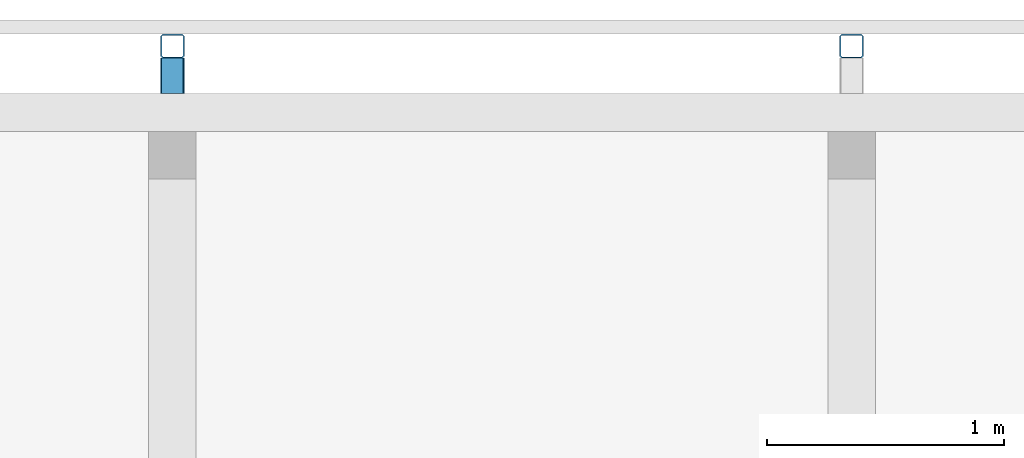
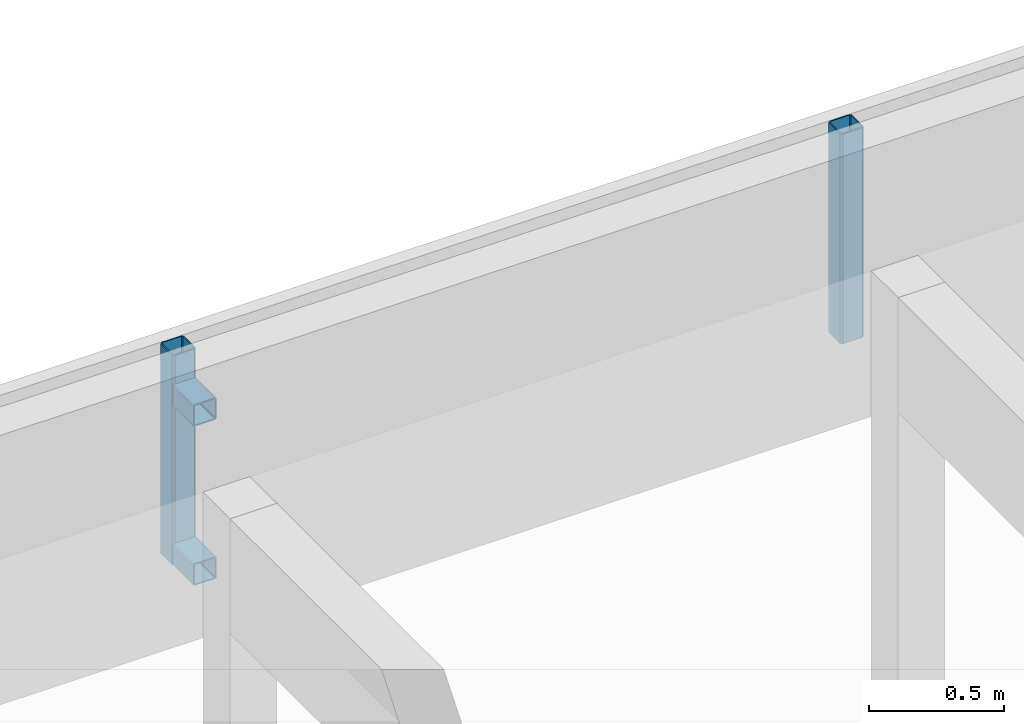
# One storey, part 29 of 44: 4 members.
"""IFC4 building model written with IfcOpenShell, lengths in metres."""

from ifc_helpers import new_model, entity, si_unit, converted_unit, derived_unit, frame, origin, place, context, subcontext, project, spatial, faceted_brep, material, element, save


model = new_model("IFC4")

# Units and contexts
model_context = context("Model", 3, precision=1e-05, world=origin())
plan_context = context("Plan", 2, precision=1e-05, world=origin())
body_context = subcontext(model_context, "Body", "Model", "MODEL_VIEW")
ifc_project = project(units=[si_unit("LENGTHUNIT", "METRE"), si_unit("AREAUNIT", "SQUARE_METRE"), si_unit("VOLUMEUNIT", "CUBIC_METRE"), si_unit("MASSUNIT", "GRAM", prefix="KILO"), converted_unit("PLANEANGLEUNIT", "DEGREE", entity("IfcPlaneAngleMeasure", 0.0174532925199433), si_unit("PLANEANGLEUNIT", "RADIAN"), dimensions=[0, 0, 0, 0, 0, 0, 0]), derived_unit("THERMALTRANSMITTANCEUNIT", [(si_unit("POWERUNIT", "WATT"), 1), (si_unit("THERMODYNAMICTEMPERATUREUNIT", "KELVIN"), -1), (si_unit("LENGTHUNIT", "METRE"), -2)]), derived_unit("VOLUMETRICFLOWRATEUNIT", [(si_unit("LENGTHUNIT", "METRE"), 3), (converted_unit("TIMEUNIT", "hour", entity("IfcTimeMeasure", 3600.0), si_unit("TIMEUNIT", "SECOND"), dimensions=[0, 0, 1, 0, 0, 0, 0]), -1), (si_unit("LENGTHUNIT", "METRE"), -1)])], contexts=[model_context, plan_context])

# Site, building, storey
site_placement = place(None, origin())
site = spatial("IfcSite", under=ifc_project, at=site_placement, Name="Site", CompositionType="ELEMENT")
building_placement = place(site_placement, origin())
building = spatial("IfcBuilding", under=site, at=building_placement, Name="Admin", CompositionType="ELEMENT")
storey_placement = place(building_placement, frame((0.0, 0.0, 3.25)))
storey = spatial("IfcBuildingStorey", under=building, at=storey_placement, Name="01-Etage1", CompositionType="ELEMENT", Elevation=3.25)

# Members
ifc_material_1 = material(Name="S235")
member_1_placement = place(storey_placement, frame((41.05980059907, 22.4994493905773, 2.82)))
element("IfcMember", 1, at=member_1_placement, inside=storey, material=ifc_material_1, Name="Bandeau R+1", context=body_context, shape_type="Brep", body=[
    faceted_brep([(0.09, 0.005, 0.0), (0.09, 0.005, 0.95), (0.01, 0.005, 0.95), (0.01, 0.005, 0.0), (0.095, 0.01, 0.0), (0.095, 0.01, 0.95), (0.095, 0.09, 0.0), (0.095, 0.09, 0.95), (0.09, 0.095, 0.0), (0.09, 0.095, 0.95), (0.01, 0.095, 0.0), (0.01, 0.095, 0.95), (0.005, 0.09, 0.0), (0.005, 0.09, 0.95), (0.005, 0.01, 0.0), (0.005, 0.01, 0.95), (0.0, 0.0075, 0.0), (0.0, 0.0075, 0.95), (0.0075, 0.0, 0.95), (0.0075, 0.0, 0.0), (0.0, 0.0925, 0.0), (0.0, 0.0925, 0.95), (0.0075, 0.1, 0.0), (0.0075, 0.1, 0.95), (0.0925, 0.1, 0.0), (0.0925, 0.1, 0.95), (0.1, 0.0925, 0.0), (0.1, 0.0925, 0.95), (0.1, 0.0075, 0.0), (0.1, 0.0075, 0.95), (0.0925, 0.0, 0.0), (0.0925, 0.0, 0.95)], [[[0, 1, 2, 3]], [[4, 5, 1, 0]], [[6, 7, 5, 4]], [[8, 9, 7, 6]], [[10, 11, 9, 8]], [[12, 13, 11, 10]], [[14, 15, 13, 12]], [[3, 2, 15, 14]], [[16, 17, 18, 19]], [[20, 21, 17, 16]], [[22, 23, 21, 20]], [[24, 25, 23, 22]], [[26, 27, 25, 24]], [[28, 29, 27, 26]], [[30, 31, 29, 28]], [[19, 18, 31, 30]], [[18, 17, 21, 23, 25, 27, 29, 31], [2, 1, 5, 7, 9, 11, 13, 15]], [[19, 30, 28, 26, 24, 22, 20, 16], [3, 14, 12, 10, 8, 6, 4, 0]]], orient=[[False], [False], [False], [False], [False], [False], [False], [False], [False], [False], [False], [False], [False], [False], [False], [False], [False, False], [False, False]]),
])
ifc_material_2 = material(Name="S235")
member_2_placement = place(storey_placement, frame((43.91980059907, 22.4994493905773, 2.82)))
element("IfcMember", 2, at=member_2_placement, inside=storey, material=ifc_material_2, Name="Bandeau R+1", context=body_context, shape_type="Brep", body=[
    faceted_brep([(0.09, 0.005, 0.0), (0.09, 0.005, 0.95), (0.01, 0.005, 0.95), (0.01, 0.005, 0.0), (0.095, 0.01, 0.0), (0.095, 0.01, 0.95), (0.095, 0.09, 0.0), (0.095, 0.09, 0.95), (0.09, 0.095, 0.0), (0.09, 0.095, 0.95), (0.01, 0.095, 0.0), (0.01, 0.095, 0.95), (0.005, 0.09, 0.0), (0.005, 0.09, 0.95), (0.005, 0.01, 0.0), (0.005, 0.01, 0.95), (0.0, 0.0075, 0.0), (0.0, 0.0075, 0.95), (0.0075, 0.0, 0.95), (0.0075, 0.0, 0.0), (0.0, 0.0925, 0.0), (0.0, 0.0925, 0.95), (0.0075, 0.1, 0.0), (0.0075, 0.1, 0.95), (0.0925, 0.1, 0.0), (0.0925, 0.1, 0.95), (0.1, 0.0925, 0.0), (0.1, 0.0925, 0.95), (0.1, 0.0075, 0.0), (0.1, 0.0075, 0.95), (0.0925, 0.0, 0.0), (0.0925, 0.0, 0.95)], [[[0, 1, 2, 3]], [[4, 5, 1, 0]], [[6, 7, 5, 4]], [[8, 9, 7, 6]], [[10, 11, 9, 8]], [[12, 13, 11, 10]], [[14, 15, 13, 12]], [[3, 2, 15, 14]], [[16, 17, 18, 19]], [[20, 21, 17, 16]], [[22, 23, 21, 20]], [[24, 25, 23, 22]], [[26, 27, 25, 24]], [[28, 29, 27, 26]], [[30, 31, 29, 28]], [[19, 18, 31, 30]], [[18, 17, 21, 23, 25, 27, 29, 31], [2, 1, 5, 7, 9, 11, 13, 15]], [[19, 30, 28, 26, 24, 22, 20, 16], [3, 14, 12, 10, 8, 6, 4, 0]]], orient=[[False], [False], [False], [False], [False], [False], [False], [False], [False], [False], [False], [False], [False], [False], [False], [False], [False, False], [False, False]]),
])
ifc_material_3 = material(Name="S235")
member_3_placement = place(storey_placement, frame((41.0598005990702, 22.3494493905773, 3.54)))
element("IfcMember", 3, at=member_3_placement, inside=storey, material=ifc_material_3, Name="Bandeau R+1", context=body_context, shape_type="Brep", body=[
    faceted_brep([(0.0050000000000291, 0.149999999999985, 0.09), (0.0050000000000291, 0.149999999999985, 0.01), (0.00500000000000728, 1.09139364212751e-14, 0.01), (0.00500000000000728, 1.09139364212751e-14, 0.09), (0.00507596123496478, 0.149999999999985, 0.0908682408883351), (0.00507596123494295, 1.09139364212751e-14, 0.0908682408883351), (0.0053015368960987, 0.149999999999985, 0.0917101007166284), (0.00530153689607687, 1.09139364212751e-14, 0.0917101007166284), (0.00566987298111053, 0.149999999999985, 0.0925), (0.0056698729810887, 1.09139364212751e-14, 0.0925), (0.00616977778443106, 0.149999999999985, 0.0932139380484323), (0.00616977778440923, 1.09139364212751e-14, 0.0932139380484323), (0.00678606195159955, 0.149999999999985, 0.0938302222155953), (0.00678606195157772, 1.09139364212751e-14, 0.0938302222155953), (0.0075000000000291, 0.149999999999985, 0.0943301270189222), (0.00750000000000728, 1.09139364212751e-14, 0.0943301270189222), (0.00828989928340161, 0.149999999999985, 0.0946984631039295), (0.00828989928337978, 1.09139364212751e-14, 0.0946984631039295), (0.00913175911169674, 0.149999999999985, 0.0949240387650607), (0.00913175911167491, 1.09139364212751e-14, 0.0949240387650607), (0.0100000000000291, 0.149999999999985, 0.095), (0.0100000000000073, 1.09139364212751e-14, 0.095), (0.0900000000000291, 0.149999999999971, 0.095), (0.0900000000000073, -3.63797880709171e-15, 0.095), (0.0908682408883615, 0.149999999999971, 0.0949240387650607), (0.0908682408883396, -3.63797880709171e-15, 0.0949240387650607), (0.0917101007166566, 0.149999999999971, 0.0946984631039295), (0.0917101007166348, -3.63797880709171e-15, 0.0946984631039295), (0.0925000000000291, 0.149999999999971, 0.0943301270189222), (0.0925000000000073, -3.63797880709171e-15, 0.0943301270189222), (0.0932139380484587, 0.149999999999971, 0.0938302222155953), (0.0932139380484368, -3.63797880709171e-15, 0.0938302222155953), (0.0938302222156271, 0.149999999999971, 0.0932139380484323), (0.0938302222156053, -3.63797880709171e-15, 0.0932139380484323), (0.0943301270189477, 0.149999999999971, 0.0925), (0.0943301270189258, -3.63797880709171e-15, 0.0925), (0.0946984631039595, 0.149999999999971, 0.0917101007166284), (0.0946984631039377, -3.63797880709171e-15, 0.0917101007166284), (0.0949240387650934, 0.149999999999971, 0.0908682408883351), (0.0949240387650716, -3.63797880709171e-15, 0.0908682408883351), (0.0950000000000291, 0.149999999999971, 0.09), (0.0950000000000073, -3.63797880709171e-15, 0.09), (0.0950000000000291, 0.149999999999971, 0.01), (0.0950000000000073, -3.63797880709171e-15, 0.01), (0.0949240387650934, 0.149999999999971, 0.00913175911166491), (0.0949240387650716, -3.63797880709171e-15, 0.00913175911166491), (0.0946984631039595, 0.149999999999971, 0.0082898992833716), (0.0946984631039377, -3.63797880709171e-15, 0.0082898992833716), (0.0943301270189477, 0.149999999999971, 0.0075), (0.0943301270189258, -3.63797880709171e-15, 0.0075), (0.0938302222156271, 0.149999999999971, 0.00678606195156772), (0.0938302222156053, -3.63797880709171e-15, 0.00678606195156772), (0.0932139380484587, 0.149999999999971, 0.00616977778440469), (0.0932139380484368, -3.63797880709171e-15, 0.00616977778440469), (0.0925000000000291, 0.149999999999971, 0.00566987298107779), (0.0925000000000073, -3.63797880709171e-15, 0.00566987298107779), (0.0917101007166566, 0.149999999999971, 0.0053015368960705), (0.0917101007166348, -3.63797880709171e-15, 0.0053015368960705), (0.0908682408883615, 0.149999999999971, 0.00507596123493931), (0.0908682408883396, -3.63797880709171e-15, 0.00507596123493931), (0.0900000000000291, 0.149999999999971, 0.005), (0.0900000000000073, -3.63797880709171e-15, 0.005), (0.0100000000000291, 0.149999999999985, 0.005), (0.0100000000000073, 1.09139364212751e-14, 0.005), (0.00913175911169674, 0.149999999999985, 0.00507596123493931), (0.00913175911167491, 1.09139364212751e-14, 0.00507596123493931), (0.00828989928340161, 0.149999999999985, 0.0053015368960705), (0.00828989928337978, 1.09139364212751e-14, 0.0053015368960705), (0.0075000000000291, 0.149999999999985, 0.00566987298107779), (0.00750000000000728, 1.09139364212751e-14, 0.00566987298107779), (0.00678606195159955, 0.149999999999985, 0.00616977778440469), (0.00678606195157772, 1.09139364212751e-14, 0.00616977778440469), (0.00616977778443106, 0.149999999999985, 0.00678606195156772), (0.00616977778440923, 1.09139364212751e-14, 0.00678606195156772), (0.00566987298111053, 0.149999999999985, 0.0075), (0.0056698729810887, 1.09139364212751e-14, 0.0075), (0.0053015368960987, 0.149999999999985, 0.0082898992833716), (0.00530153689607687, 1.09139364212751e-14, 0.0082898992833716), (0.00507596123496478, 0.149999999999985, 0.00913175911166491), (0.00507596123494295, 1.09139364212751e-14, 0.00913175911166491), (0.0925000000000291, 0.149999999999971, 0.1), (0.0938023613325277, 0.149999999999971, 0.0998860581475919), (0.0938023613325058, -3.63797880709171e-15, 0.0998860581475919), (0.0925000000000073, -3.63797880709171e-15, 0.1), (0.0075000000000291, 0.149999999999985, 0.1), (0.00750000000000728, 1.09139364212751e-14, 0.1), (0.00619763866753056, 0.149999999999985, 0.0998860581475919), (0.00619763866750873, 1.09139364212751e-14, 0.0998860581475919), (0.00493484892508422, 0.149999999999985, 0.0995476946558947), (0.0049348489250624, 1.09139364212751e-14, 0.0995476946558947), (0.0037500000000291, 0.149999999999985, 0.0989951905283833), (0.00375000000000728, 1.09139364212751e-14, 0.0989951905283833), (0.0026790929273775, 0.149999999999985, 0.0982453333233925), (0.00267909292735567, 1.09139364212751e-14, 0.0982453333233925), (0.00175466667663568, 0.149999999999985, 0.0973209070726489), (0.00175466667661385, 1.09139364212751e-14, 0.0973209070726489), (0.0010048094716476, 0.149999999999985, 0.09625), (0.00100480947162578, 1.09139364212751e-14, 0.09625), (0.00045230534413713, 0.149999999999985, 0.0950651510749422), (0.000452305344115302, 1.09139364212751e-14, 0.0950651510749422), (0.000113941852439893, 0.149999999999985, 0.0938023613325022), (0.000113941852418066, 1.09139364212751e-14, 0.0938023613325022), (2.91038304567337e-14, 0.149999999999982, 0.0925), (7.27595761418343e-15, 7.27595761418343e-15, 0.0925), (0.000113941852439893, 0.149999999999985, 0.00619763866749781), (2.91038304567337e-14, 0.149999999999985, 0.0075), (7.27595761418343e-15, 1.09139364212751e-14, 0.0075), (0.000113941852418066, 1.09139364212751e-14, 0.00619763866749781), (0.00045230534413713, 0.149999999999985, 0.00493484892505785), (0.000452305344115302, 1.09139364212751e-14, 0.00493484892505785), (0.0010048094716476, 0.149999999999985, 0.00375), (0.00100480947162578, 1.09139364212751e-14, 0.00375), (0.00175466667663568, 0.149999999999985, 0.00267909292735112), (0.00175466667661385, 1.09139364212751e-14, 0.00267909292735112), (0.0026790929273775, 0.149999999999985, 0.00175466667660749), (0.00267909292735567, 1.09139364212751e-14, 0.00175466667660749), (0.0037500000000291, 0.149999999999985, 0.00100480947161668), (0.00375000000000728, 1.09139364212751e-14, 0.00100480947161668), (0.00493484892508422, 0.149999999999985, 0.000452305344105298), (0.0049348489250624, 1.09139364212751e-14, 0.000452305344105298), (0.00619763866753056, 0.149999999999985, 0.000113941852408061), (0.00619763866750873, 1.09139364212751e-14, 0.000113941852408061), (0.0075000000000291, 0.149999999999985, 0.0), (0.00750000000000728, 1.09139364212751e-14, 0.0), (0.0925000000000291, 0.149999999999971, 0.0), (0.0925000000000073, -3.63797880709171e-15, 0.0), (0.0938023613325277, 0.149999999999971, 0.000113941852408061), (0.0938023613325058, -3.63797880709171e-15, 0.000113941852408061), (0.095065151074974, 0.149999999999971, 0.000452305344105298), (0.0950651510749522, -3.63797880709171e-15, 0.000452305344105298), (0.0962500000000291, 0.149999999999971, 0.00100480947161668), (0.0962500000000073, -3.63797880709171e-15, 0.00100480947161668), (0.0973209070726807, 0.149999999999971, 0.00175466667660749), (0.0973209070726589, -3.63797880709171e-15, 0.00175466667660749), (0.0982453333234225, 0.149999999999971, 0.00267909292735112), (0.0982453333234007, -3.63797880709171e-15, 0.00267909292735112), (0.0989951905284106, 0.149999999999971, 0.00375), (0.0989951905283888, -3.63797880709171e-15, 0.00375), (0.0995476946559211, 0.149999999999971, 0.00493484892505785), (0.0995476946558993, -3.63797880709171e-15, 0.00493484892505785), (0.0998860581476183, 0.149999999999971, 0.00619763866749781), (0.0998860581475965, -3.63797880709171e-15, 0.00619763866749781), (0.100000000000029, 0.149999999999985, 0.0075), (0.100000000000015, -3.63797880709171e-15, 0.0075), (0.0998860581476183, 0.149999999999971, 0.0938023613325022), (0.100000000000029, 0.149999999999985, 0.0925), (0.100000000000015, -3.63797880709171e-15, 0.0925), (0.0998860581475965, -3.63797880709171e-15, 0.0938023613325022), (0.0995476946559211, 0.149999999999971, 0.0950651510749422), (0.0995476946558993, -3.63797880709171e-15, 0.0950651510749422), (0.0989951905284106, 0.149999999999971, 0.09625), (0.0989951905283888, -3.63797880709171e-15, 0.09625), (0.0982453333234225, 0.149999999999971, 0.0973209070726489), (0.0982453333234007, -3.63797880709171e-15, 0.0973209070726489), (0.0973209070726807, 0.149999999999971, 0.0982453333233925), (0.0973209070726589, -3.63797880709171e-15, 0.0982453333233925), (0.0962500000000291, 0.149999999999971, 0.0989951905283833), (0.0962500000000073, -3.63797880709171e-15, 0.0989951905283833), (0.095065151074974, 0.149999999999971, 0.0995476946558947), (0.0950651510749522, -3.63797880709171e-15, 0.0995476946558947)], [[[0, 1, 2, 3]], [[4, 0, 3, 5]], [[6, 4, 5, 7]], [[8, 6, 7, 9]], [[10, 8, 9, 11]], [[12, 10, 11, 13]], [[14, 12, 13, 15]], [[16, 14, 15, 17]], [[18, 16, 17, 19]], [[20, 18, 19, 21]], [[22, 20, 21, 23]], [[24, 22, 23, 25]], [[26, 24, 25, 27]], [[28, 26, 27, 29]], [[30, 28, 29, 31]], [[32, 30, 31, 33]], [[34, 32, 33, 35]], [[36, 34, 35, 37]], [[38, 36, 37, 39]], [[40, 38, 39, 41]], [[42, 40, 41, 43]], [[44, 42, 43, 45]], [[46, 44, 45, 47]], [[48, 46, 47, 49]], [[50, 48, 49, 51]], [[52, 50, 51, 53]], [[54, 52, 53, 55]], [[56, 54, 55, 57]], [[58, 56, 57, 59]], [[60, 58, 59, 61]], [[62, 60, 61, 63]], [[64, 62, 63, 65]], [[66, 64, 65, 67]], [[68, 66, 67, 69]], [[70, 68, 69, 71]], [[72, 70, 71, 73]], [[74, 72, 73, 75]], [[76, 74, 75, 77]], [[78, 76, 77, 79]], [[1, 78, 79, 2]], [[80, 81, 82, 83]], [[84, 80, 83, 85]], [[86, 84, 85, 87]], [[88, 86, 87, 89]], [[90, 88, 89, 91]], [[92, 90, 91, 93]], [[94, 92, 93, 95]], [[96, 94, 95, 97]], [[98, 96, 97, 99]], [[100, 98, 99, 101]], [[102, 100, 101, 103]], [[104, 105, 106, 107]], [[108, 104, 107, 109]], [[110, 108, 109, 111]], [[112, 110, 111, 113]], [[114, 112, 113, 115]], [[116, 114, 115, 117]], [[118, 116, 117, 119]], [[120, 118, 119, 121]], [[122, 120, 121, 123]], [[124, 122, 123, 125]], [[126, 124, 125, 127]], [[128, 126, 127, 129]], [[130, 128, 129, 131]], [[132, 130, 131, 133]], [[134, 132, 133, 135]], [[136, 134, 135, 137]], [[138, 136, 137, 139]], [[140, 138, 139, 141]], [[142, 140, 141, 143]], [[144, 145, 146, 147]], [[148, 144, 147, 149]], [[150, 148, 149, 151]], [[152, 150, 151, 153]], [[154, 152, 153, 155]], [[156, 154, 155, 157]], [[158, 156, 157, 159]], [[81, 158, 159, 82]], [[146, 143, 141, 139, 137, 135, 133, 131, 129, 127, 125, 123, 121, 119, 117, 115, 113, 111, 109, 107, 106, 103, 101, 99, 97, 95, 93, 91, 89, 87, 85, 83, 82, 159, 157, 155, 153, 151, 149, 147], [2, 79, 77, 75, 73, 71, 69, 67, 65, 63, 61, 59, 57, 55, 53, 51, 49, 47, 45, 43, 41, 39, 37, 35, 33, 31, 29, 27, 25, 23, 21, 19, 17, 15, 13, 11, 9, 7, 5, 3]], [[103, 106, 105, 102]], [[102, 105, 104, 108, 110, 112, 114, 116, 118, 120, 122, 124, 126, 128, 130, 132, 134, 136, 138, 140, 142, 145, 144, 148, 150, 152, 154, 156, 158, 81, 80, 84, 86, 88, 90, 92, 94, 96, 98, 100], [1, 0, 4, 6, 8, 10, 12, 14, 16, 18, 20, 22, 24, 26, 28, 30, 32, 34, 36, 38, 40, 42, 44, 46, 48, 50, 52, 54, 56, 58, 60, 62, 64, 66, 68, 70, 72, 74, 76, 78]], [[145, 142, 143, 146]]], orient=[[False], [False], [False], [False], [False], [False], [False], [False], [False], [False], [False], [False], [False], [False], [False], [False], [False], [False], [False], [False], [False], [False], [False], [False], [False], [False], [False], [False], [False], [False], [False], [False], [False], [False], [False], [False], [False], [False], [False], [False], [False], [False], [False], [False], [False], [False], [False], [False], [False], [False], [False], [False], [False], [False], [False], [False], [False], [False], [False], [False], [False], [False], [False], [False], [False], [False], [False], [False], [False], [False], [False], [False], [False], [False], [False], [False], [False], [False], [False, False], [False], [False, False], [False]]),
])
ifc_material_4 = material(Name="S235")
member_4_placement = place(storey_placement, frame((41.0598005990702, 22.3494493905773, 2.82)))
element("IfcMember", 4, at=member_4_placement, inside=storey, material=ifc_material_4, Name="Bandeau R+1", context=body_context, shape_type="Brep", body=[
    faceted_brep([(0.0050000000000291, 0.15, 0.09), (0.0050000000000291, 0.15, 0.01), (0.00500000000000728, 1.81898940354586e-14, 0.01), (0.00500000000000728, 1.81898940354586e-14, 0.09), (0.00507596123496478, 0.15, 0.0908682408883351), (0.00507596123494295, 1.81898940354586e-14, 0.0908682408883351), (0.0053015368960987, 0.15, 0.0917101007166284), (0.00530153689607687, 1.81898940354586e-14, 0.0917101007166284), (0.00566987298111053, 0.15, 0.0925), (0.0056698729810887, 1.81898940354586e-14, 0.0925), (0.00616977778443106, 0.15, 0.0932139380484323), (0.00616977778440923, 1.81898940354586e-14, 0.0932139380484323), (0.00678606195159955, 0.15, 0.0938302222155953), (0.00678606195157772, 1.81898940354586e-14, 0.0938302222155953), (0.0075000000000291, 0.15, 0.0943301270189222), (0.00750000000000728, 1.81898940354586e-14, 0.0943301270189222), (0.00828989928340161, 0.15, 0.0946984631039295), (0.00828989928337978, 1.81898940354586e-14, 0.0946984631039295), (0.00913175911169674, 0.15, 0.0949240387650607), (0.00913175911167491, 1.81898940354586e-14, 0.0949240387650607), (0.0100000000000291, 0.15, 0.095), (0.0100000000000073, 1.81898940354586e-14, 0.095), (0.0900000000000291, 0.149999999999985, 0.095), (0.0900000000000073, 3.63797880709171e-15, 0.095), (0.0908682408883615, 0.149999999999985, 0.0949240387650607), (0.0908682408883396, 3.63797880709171e-15, 0.0949240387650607), (0.0917101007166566, 0.149999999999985, 0.0946984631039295), (0.0917101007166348, 3.63797880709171e-15, 0.0946984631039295), (0.0925000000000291, 0.149999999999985, 0.0943301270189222), (0.0925000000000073, 3.63797880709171e-15, 0.0943301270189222), (0.0932139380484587, 0.149999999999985, 0.0938302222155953), (0.0932139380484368, 3.63797880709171e-15, 0.0938302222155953), (0.0938302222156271, 0.149999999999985, 0.0932139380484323), (0.0938302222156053, 3.63797880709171e-15, 0.0932139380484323), (0.0943301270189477, 0.149999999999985, 0.0925), (0.0943301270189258, 3.63797880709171e-15, 0.0925), (0.0946984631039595, 0.149999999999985, 0.0917101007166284), (0.0946984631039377, 3.63797880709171e-15, 0.0917101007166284), (0.0949240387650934, 0.149999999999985, 0.0908682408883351), (0.0949240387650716, 3.63797880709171e-15, 0.0908682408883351), (0.0950000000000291, 0.149999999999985, 0.09), (0.0950000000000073, 3.63797880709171e-15, 0.09), (0.0950000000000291, 0.149999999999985, 0.01), (0.0950000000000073, 3.63797880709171e-15, 0.01), (0.0949240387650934, 0.149999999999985, 0.00913175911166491), (0.0949240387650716, 3.63797880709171e-15, 0.00913175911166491), (0.0946984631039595, 0.149999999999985, 0.0082898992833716), (0.0946984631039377, 3.63797880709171e-15, 0.0082898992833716), (0.0943301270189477, 0.149999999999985, 0.0075), (0.0943301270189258, 3.63797880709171e-15, 0.0075), (0.0938302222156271, 0.149999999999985, 0.00678606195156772), (0.0938302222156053, 3.63797880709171e-15, 0.00678606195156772), (0.0932139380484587, 0.149999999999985, 0.00616977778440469), (0.0932139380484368, 3.63797880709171e-15, 0.00616977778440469), (0.0925000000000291, 0.149999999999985, 0.00566987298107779), (0.0925000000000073, 3.63797880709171e-15, 0.00566987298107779), (0.0917101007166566, 0.149999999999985, 0.0053015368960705), (0.0917101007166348, 3.63797880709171e-15, 0.0053015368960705), (0.0908682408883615, 0.149999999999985, 0.00507596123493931), (0.0908682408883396, 3.63797880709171e-15, 0.00507596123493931), (0.0900000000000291, 0.149999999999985, 0.005), (0.0900000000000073, 3.63797880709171e-15, 0.005), (0.0100000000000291, 0.15, 0.005), (0.0100000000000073, 1.81898940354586e-14, 0.005), (0.00913175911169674, 0.15, 0.00507596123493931), (0.00913175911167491, 1.81898940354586e-14, 0.00507596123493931), (0.00828989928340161, 0.15, 0.0053015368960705), (0.00828989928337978, 1.81898940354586e-14, 0.0053015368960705), (0.0075000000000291, 0.15, 0.00566987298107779), (0.00750000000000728, 1.81898940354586e-14, 0.00566987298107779), (0.00678606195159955, 0.15, 0.00616977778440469), (0.00678606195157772, 1.81898940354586e-14, 0.00616977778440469), (0.00616977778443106, 0.15, 0.00678606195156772), (0.00616977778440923, 1.81898940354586e-14, 0.00678606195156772), (0.00566987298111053, 0.15, 0.0075), (0.0056698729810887, 1.81898940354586e-14, 0.0075), (0.0053015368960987, 0.15, 0.0082898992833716), (0.00530153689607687, 1.81898940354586e-14, 0.0082898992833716), (0.00507596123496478, 0.15, 0.00913175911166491), (0.00507596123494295, 1.81898940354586e-14, 0.00913175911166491), (0.0925000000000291, 0.149999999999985, 0.1), (0.0938023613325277, 0.149999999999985, 0.0998860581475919), (0.0938023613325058, 3.63797880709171e-15, 0.0998860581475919), (0.0925000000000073, 3.63797880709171e-15, 0.1), (0.0075000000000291, 0.15, 0.1), (0.00750000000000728, 1.81898940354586e-14, 0.1), (0.00619763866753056, 0.15, 0.0998860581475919), (0.00619763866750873, 1.81898940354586e-14, 0.0998860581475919), (0.00493484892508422, 0.15, 0.0995476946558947), (0.0049348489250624, 1.81898940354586e-14, 0.0995476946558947), (0.0037500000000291, 0.15, 0.0989951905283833), (0.00375000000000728, 1.81898940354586e-14, 0.0989951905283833), (0.0026790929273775, 0.15, 0.0982453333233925), (0.00267909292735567, 1.81898940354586e-14, 0.0982453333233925), (0.00175466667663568, 0.15, 0.0973209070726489), (0.00175466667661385, 1.81898940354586e-14, 0.0973209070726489), (0.0010048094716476, 0.15, 0.09625), (0.00100480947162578, 1.81898940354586e-14, 0.09625), (0.00045230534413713, 0.15, 0.0950651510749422), (0.000452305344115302, 1.81898940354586e-14, 0.0950651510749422), (0.000113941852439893, 0.15, 0.0938023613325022), (0.000113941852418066, 1.81898940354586e-14, 0.0938023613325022), (2.91038304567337e-14, 0.15, 0.0925), (7.27595761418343e-15, 1.45519152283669e-14, 0.0925), (0.000113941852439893, 0.15, 0.00619763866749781), (2.91038304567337e-14, 0.15, 0.0075), (7.27595761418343e-15, 1.81898940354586e-14, 0.0075), (0.000113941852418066, 1.81898940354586e-14, 0.00619763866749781), (0.00045230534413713, 0.15, 0.00493484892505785), (0.000452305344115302, 1.81898940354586e-14, 0.00493484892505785), (0.0010048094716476, 0.15, 0.00375), (0.00100480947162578, 1.81898940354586e-14, 0.00375), (0.00175466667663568, 0.15, 0.00267909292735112), (0.00175466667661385, 1.81898940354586e-14, 0.00267909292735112), (0.0026790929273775, 0.15, 0.00175466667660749), (0.00267909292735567, 1.81898940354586e-14, 0.00175466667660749), (0.0037500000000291, 0.15, 0.00100480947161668), (0.00375000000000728, 1.81898940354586e-14, 0.00100480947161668), (0.00493484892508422, 0.15, 0.000452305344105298), (0.0049348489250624, 1.81898940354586e-14, 0.000452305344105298), (0.00619763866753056, 0.15, 0.000113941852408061), (0.00619763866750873, 1.81898940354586e-14, 0.000113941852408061), (0.0075000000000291, 0.15, 0.0), (0.00750000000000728, 1.81898940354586e-14, 0.0), (0.0925000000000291, 0.149999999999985, 0.0), (0.0925000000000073, 3.63797880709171e-15, 0.0), (0.0938023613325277, 0.149999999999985, 0.000113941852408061), (0.0938023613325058, 3.63797880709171e-15, 0.000113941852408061), (0.095065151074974, 0.149999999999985, 0.000452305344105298), (0.0950651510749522, 3.63797880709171e-15, 0.000452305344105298), (0.0962500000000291, 0.149999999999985, 0.00100480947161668), (0.0962500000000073, 3.63797880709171e-15, 0.00100480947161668), (0.0973209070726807, 0.149999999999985, 0.00175466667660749), (0.0973209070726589, 3.63797880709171e-15, 0.00175466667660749), (0.0982453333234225, 0.149999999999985, 0.00267909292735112), (0.0982453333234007, 3.63797880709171e-15, 0.00267909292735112), (0.0989951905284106, 0.149999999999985, 0.00375), (0.0989951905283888, 3.63797880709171e-15, 0.00375), (0.0995476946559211, 0.149999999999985, 0.00493484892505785), (0.0995476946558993, 3.63797880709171e-15, 0.00493484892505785), (0.0998860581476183, 0.149999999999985, 0.00619763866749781), (0.0998860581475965, 3.63797880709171e-15, 0.00619763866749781), (0.100000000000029, 0.15, 0.0075), (0.100000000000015, 3.63797880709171e-15, 0.0075), (0.0998860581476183, 0.149999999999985, 0.0938023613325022), (0.100000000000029, 0.15, 0.0925), (0.100000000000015, 3.63797880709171e-15, 0.0925), (0.0998860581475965, 3.63797880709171e-15, 0.0938023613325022), (0.0995476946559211, 0.149999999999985, 0.0950651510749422), (0.0995476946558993, 3.63797880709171e-15, 0.0950651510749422), (0.0989951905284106, 0.149999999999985, 0.09625), (0.0989951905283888, 3.63797880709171e-15, 0.09625), (0.0982453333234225, 0.149999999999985, 0.0973209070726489), (0.0982453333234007, 3.63797880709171e-15, 0.0973209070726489), (0.0973209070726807, 0.149999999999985, 0.0982453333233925), (0.0973209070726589, 3.63797880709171e-15, 0.0982453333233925), (0.0962500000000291, 0.149999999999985, 0.0989951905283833), (0.0962500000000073, 3.63797880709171e-15, 0.0989951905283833), (0.095065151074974, 0.149999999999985, 0.0995476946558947), (0.0950651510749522, 3.63797880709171e-15, 0.0995476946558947)], [[[0, 1, 2, 3]], [[4, 0, 3, 5]], [[6, 4, 5, 7]], [[8, 6, 7, 9]], [[10, 8, 9, 11]], [[12, 10, 11, 13]], [[14, 12, 13, 15]], [[16, 14, 15, 17]], [[18, 16, 17, 19]], [[20, 18, 19, 21]], [[22, 20, 21, 23]], [[24, 22, 23, 25]], [[26, 24, 25, 27]], [[28, 26, 27, 29]], [[30, 28, 29, 31]], [[32, 30, 31, 33]], [[34, 32, 33, 35]], [[36, 34, 35, 37]], [[38, 36, 37, 39]], [[40, 38, 39, 41]], [[42, 40, 41, 43]], [[44, 42, 43, 45]], [[46, 44, 45, 47]], [[48, 46, 47, 49]], [[50, 48, 49, 51]], [[52, 50, 51, 53]], [[54, 52, 53, 55]], [[56, 54, 55, 57]], [[58, 56, 57, 59]], [[60, 58, 59, 61]], [[62, 60, 61, 63]], [[64, 62, 63, 65]], [[66, 64, 65, 67]], [[68, 66, 67, 69]], [[70, 68, 69, 71]], [[72, 70, 71, 73]], [[74, 72, 73, 75]], [[76, 74, 75, 77]], [[78, 76, 77, 79]], [[1, 78, 79, 2]], [[80, 81, 82, 83]], [[84, 80, 83, 85]], [[86, 84, 85, 87]], [[88, 86, 87, 89]], [[90, 88, 89, 91]], [[92, 90, 91, 93]], [[94, 92, 93, 95]], [[96, 94, 95, 97]], [[98, 96, 97, 99]], [[100, 98, 99, 101]], [[102, 100, 101, 103]], [[104, 105, 106, 107]], [[108, 104, 107, 109]], [[110, 108, 109, 111]], [[112, 110, 111, 113]], [[114, 112, 113, 115]], [[116, 114, 115, 117]], [[118, 116, 117, 119]], [[120, 118, 119, 121]], [[122, 120, 121, 123]], [[124, 122, 123, 125]], [[126, 124, 125, 127]], [[128, 126, 127, 129]], [[130, 128, 129, 131]], [[132, 130, 131, 133]], [[134, 132, 133, 135]], [[136, 134, 135, 137]], [[138, 136, 137, 139]], [[140, 138, 139, 141]], [[142, 140, 141, 143]], [[144, 145, 146, 147]], [[148, 144, 147, 149]], [[150, 148, 149, 151]], [[152, 150, 151, 153]], [[154, 152, 153, 155]], [[156, 154, 155, 157]], [[158, 156, 157, 159]], [[81, 158, 159, 82]], [[146, 143, 141, 139, 137, 135, 133, 131, 129, 127, 125, 123, 121, 119, 117, 115, 113, 111, 109, 107, 106, 103, 101, 99, 97, 95, 93, 91, 89, 87, 85, 83, 82, 159, 157, 155, 153, 151, 149, 147], [2, 79, 77, 75, 73, 71, 69, 67, 65, 63, 61, 59, 57, 55, 53, 51, 49, 47, 45, 43, 41, 39, 37, 35, 33, 31, 29, 27, 25, 23, 21, 19, 17, 15, 13, 11, 9, 7, 5, 3]], [[103, 106, 105, 102]], [[102, 105, 104, 108, 110, 112, 114, 116, 118, 120, 122, 124, 126, 128, 130, 132, 134, 136, 138, 140, 142, 145, 144, 148, 150, 152, 154, 156, 158, 81, 80, 84, 86, 88, 90, 92, 94, 96, 98, 100], [1, 0, 4, 6, 8, 10, 12, 14, 16, 18, 20, 22, 24, 26, 28, 30, 32, 34, 36, 38, 40, 42, 44, 46, 48, 50, 52, 54, 56, 58, 60, 62, 64, 66, 68, 70, 72, 74, 76, 78]], [[145, 142, 143, 146]]], orient=[[False], [False], [False], [False], [False], [False], [False], [False], [False], [False], [False], [False], [False], [False], [False], [False], [False], [False], [False], [False], [False], [False], [False], [False], [False], [False], [False], [False], [False], [False], [False], [False], [False], [False], [False], [False], [False], [False], [False], [False], [False], [False], [False], [False], [False], [False], [False], [False], [False], [False], [False], [False], [False], [False], [False], [False], [False], [False], [False], [False], [False], [False], [False], [False], [False], [False], [False], [False], [False], [False], [False], [False], [False], [False], [False], [False], [False], [False], [False, False], [False], [False, False], [False]]),
])

save(model, "model.ifc")
